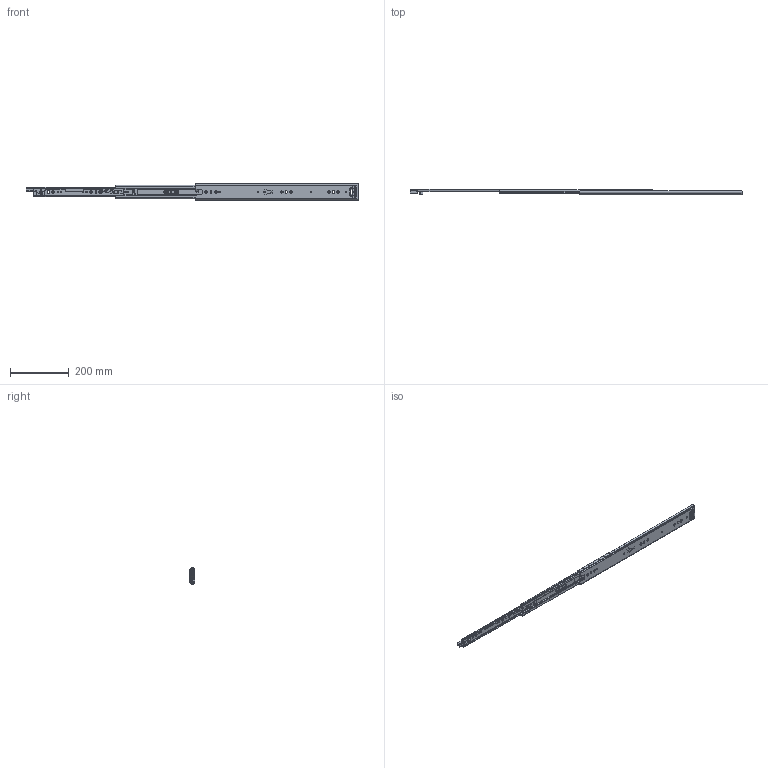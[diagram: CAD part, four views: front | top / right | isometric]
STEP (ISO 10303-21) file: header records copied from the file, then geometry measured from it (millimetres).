
FILE_DESCRIPTION((''),'2;1');
FILE_NAME('KP-57-01ZUZHUANGTU-22YOU_ASM','2023-04-03T',('jishu015'),(''),'PRO/ENGINEER BY PARAMETRIC TECHNOLOGY CORPORATION, 2010280','PRO/ENGINEER BY PARAMETRIC TECHNOLOGY CORPORATION, 2010280','');
FILE_SCHEMA(('CONFIG_CONTROL_DESIGN'));
Products named in the file (21): KP-57-01WEIKE-1811; 1057WEIJIAO________________; WAIKE_______________ASM; KP-57-01ZHONGGUI-26___; ZHONGGUIPEIJIAN-1121; ZHONGGUISUOKOU-11______________; KP-57-01ZHONGGUI-26____ASM; 1057XIAOZHUJIA________________; 1057-5-6GANZHU________________; 1057XIAOZHUJIA-14GE26____ASM; KP-57-01NEIGUI-22_; PJ-57-08______________; DIAOPIAN-11______________; 50XINSUOKOU-1______________; 1053-3SBANJI122____________; JIAO11____________; KP-57-01NEIGUI-22__ASM; 1053ZHUTIAO-275___; 53-5-6GANZHU11; 1053ZHUTIAO-175MM_______________ASM; KP-57-01ZUZHUANGTU-22YOU_ASM
Assembly tree (64 placements, depth 3):
  KP-57-01ZUZHUANGTU-22YOU_ASM
    WAIKE_______________ASM
      KP-57-01WEIKE-1811
      1057WEIJIAO________________
    KP-57-01ZHONGGUI-26____ASM
      KP-57-01ZHONGGUI-26___
      ZHONGGUIPEIJIAN-1121
      ZHONGGUISUOKOU-11______________
    1057XIAOZHUJIA-14GE26____ASM
      1057XIAOZHUJIA________________
      1057-5-6GANZHU________________  x36
    KP-57-01NEIGUI-22__ASM
      KP-57-01NEIGUI-22_
      PJ-57-08______________
      DIAOPIAN-11______________
      50XINSUOKOU-1______________
      1053-3SBANJI122____________
      JIAO11____________
    1053ZHUTIAO-175MM_______________ASM  x2
      1053ZHUTIAO-275___
      53-5-6GANZHU11
Bounding box: 1126.98 x 19 x 57.67 mm (x, y, z)
Volume: 240804.7 mm3; surface area: 261409 mm2
Topology: 69 solids, 69 shells, 1972 faces, 5668 edges, 3559 vertices
Faces by surface type: plane 834, cylinder 826, sphere 119, bspline 91, cone 60, extrusion 23, torus 19
Entity records: 65044 total; most frequent: CARTESIAN_POINT 16399, ORIENTED_EDGE 10308, DIRECTION 9976, EDGE_CURVE 5154, AXIS2_PLACEMENT_3D 3429, VERTEX_POINT 3331, VECTOR 3118, LINE 3095
